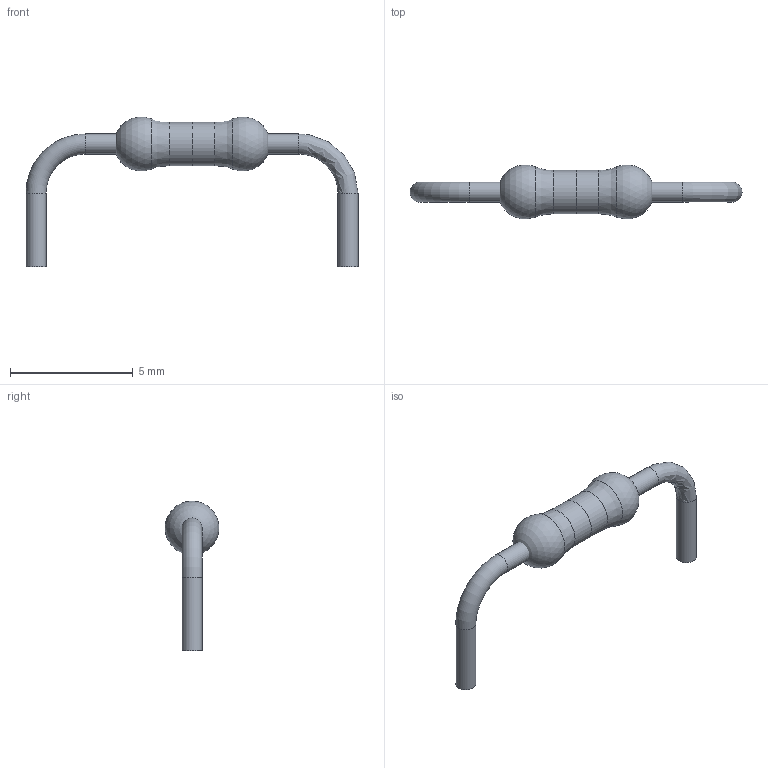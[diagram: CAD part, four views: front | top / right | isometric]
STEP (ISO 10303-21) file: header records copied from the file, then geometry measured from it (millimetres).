
FILE_DESCRIPTION(('FreeCAD Model'),'2;1');
FILE_NAME('Schematics/CV.3dshapes/Resistor_12.7mm.stp','2020-09-09T18:22:31',(''),(''), 'Open CASCADE STEP processor 7.3','FreeCAD','Unknown');
FILE_SCHEMA(('AUTOMOTIVE_DESIGN { 1 0 10303 214 1 1 1 1 }'));
Length unit declared in the file: millimetre
Products named in the file (3): Resistor_12.7mm; Lead; Body003
Assembly tree (2 placements, depth 2):
  Resistor_12.7mm
    Lead
    Body003
Bounding box: 13.52 x 2.2 x 6.09 mm (x, y, z)
Volume: 28.1 mm3; surface area: 95 mm2
Topology: 2 solids, 2 shells, 13 faces, 24 edges, 13 vertices
Faces by surface type: cylinder 4, revolution 3, plane 2, sphere 2, extrusion 1, torus 1
Full cylindrical faces by diameter (mm): 0.818 x2, 1.76 x2
Entity records: 680 total; most frequent: DIRECTION 119, CARTESIAN_POINT 98, VECTOR 48, LINE 47, ORIENTED_EDGE 44, PCURVE 44, DEFINITIONAL_REPRESENTATION 44, AXIS2_PLACEMENT_3D 33
